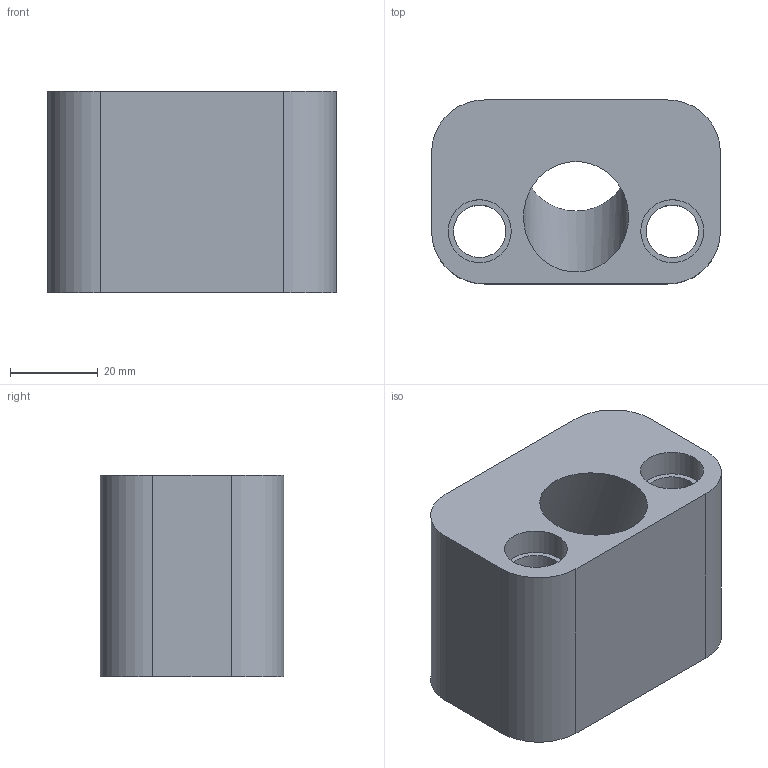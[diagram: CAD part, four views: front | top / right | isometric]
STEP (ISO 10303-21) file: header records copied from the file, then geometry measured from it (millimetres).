
FILE_DESCRIPTION(/* description */ ('STEP AP214'),/* implementation_level */ '2;1');
FILE_NAME(/* name */ 'F30602442',/* time_stamp */ '2024-09-18T16:05:11+02:00',/* author */ ('License CC BY-ND 4.0'),/* organization */ ('CADENAS'),/* preprocessor_version */ 'ST-DEVELOPER v19.3',/* originating_system */ 'PARTsolutions',/* authorisation */ ' ');
FILE_SCHEMA (('AUTOMOTIVE_DESIGN {1 0 10303 214 3 1 1}'));
Length unit declared in the file: millimetre
Products named in the file (1): F30602442
Bounding box: 66 x 42 x 46 mm (x, y, z)
Volume: 87489.5 mm3; surface area: 19756.7 mm2
Topology: 1 solids, 1 shells, 21 faces, 51 edges, 34 vertices
Faces by surface type: plane 11, cylinder 10
Full cylindrical faces by diameter (mm): 12 x2, 14.4 x2, 24 x1
Entity records: 642 total; most frequent: DIRECTION 110, CARTESIAN_POINT 102, ORIENTED_EDGE 92, EDGE_CURVE 46, AXIS2_PLACEMENT_3D 42, VERTEX_POINT 34, EDGE_LOOP 34, FACE_BOUND 34
